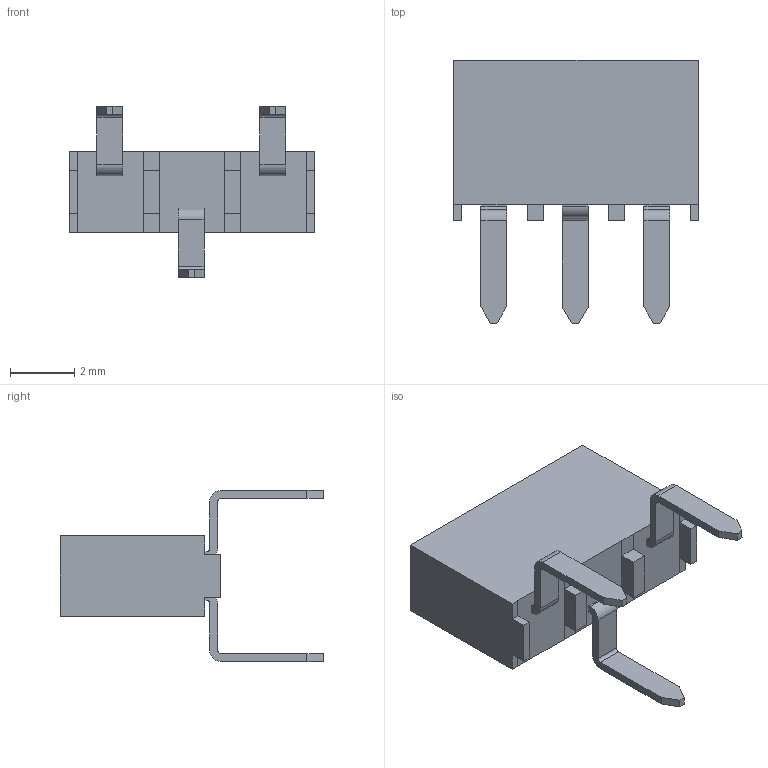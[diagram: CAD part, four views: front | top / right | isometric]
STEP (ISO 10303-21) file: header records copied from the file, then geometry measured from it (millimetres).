
FILE_DESCRIPTION (( 'STEP AP214' ), '1' );
FILE_NAME ('2048-1X03G00AU.STEP', '2017-09-04T17:12:39', ( '' ), ( '' ), 'SwSTEP 2.0', 'SolidWorks 2015', '' );
FILE_SCHEMA (( 'AUTOMOTIVE_DESIGN' ));
Length unit declared in the file: millimetre
Products named in the file (7): 2048-1; 2048-1X03G00AU; 2048
Assembly tree (4 placements, depth 2):
  2048-1
  2048-1
  2048-1X03G00AU
    2048
    2048-1  x3
  2048
  2048-1
Bounding box: 7.62 x 8.2 x 5.33 mm (x, y, z)
Volume: 88.5 mm3; surface area: 172.7 mm2
Topology: 4 solids, 4 shells, 109 faces, 282 edges, 184 vertices
Faces by surface type: plane 97, cylinder 12
Entity records: 2458 total; most frequent: CARTESIAN_POINT 411, ORIENTED_EDGE 396, DIRECTION 376, EDGE_CURVE 198, LINE 190, VECTOR 190, VERTEX_POINT 128, AXIS2_PLACEMENT_3D 93
